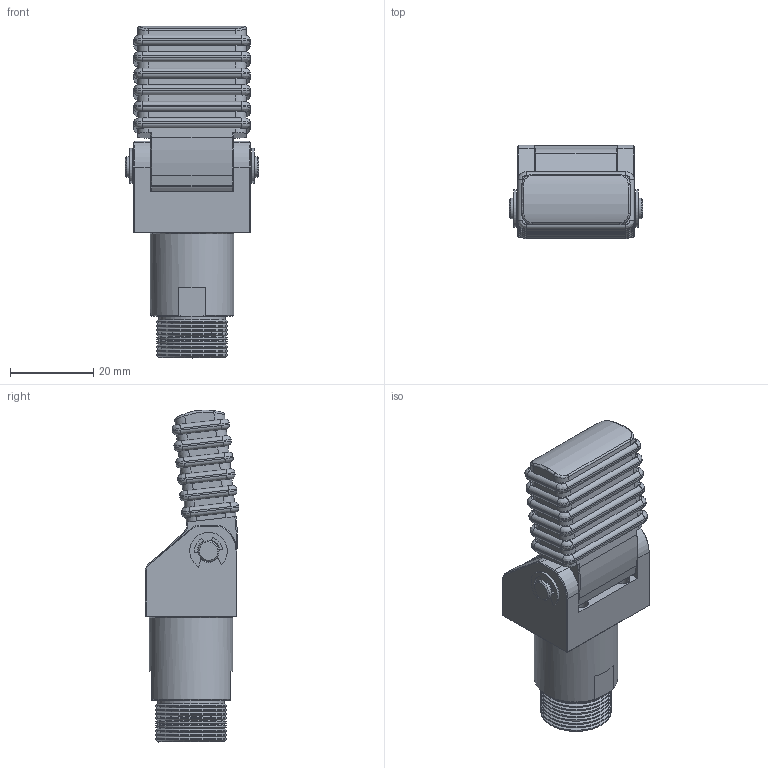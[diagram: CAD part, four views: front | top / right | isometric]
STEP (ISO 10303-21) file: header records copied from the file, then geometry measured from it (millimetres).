
FILE_DESCRIPTION(/* description */ (''),/* implementation_level */ '2;1');
FILE_NAME(/* name */ '8.Y00398-GOF20-20-NBR(1).stp',/* time_stamp */ '2023-03-09T13:20:23+08:00',/* author */ (''),/* organization */ (''),/* preprocessor_version */ 'ST-DEVELOPER v16',/* originating_system */ 'SIEMENS PLM Software NX 10.0',/* authorisation */ '');
FILE_SCHEMA (('AUTOMOTIVE_DESIGN { 1 0 10303 214 3 1 1 1 }'));
Length unit declared in the file: millimetre
Products named in the file (1): _modelEWW
Bounding box: 32 x 22.47 x 79.64 mm (x, y, z)
Volume: 27927.7 mm3; surface area: 13316.9 mm2
Topology: 5 solids, 5 shells, 438 faces, 1091 edges, 671 vertices
Faces by surface type: plane 181, cylinder 156, cone 47, bspline 28, torus 26
Full cylindrical faces by diameter (mm): 1 x1, 3 x1, 3.1 x2, 3.9 x2, 4.2 x1, 5 x6, 15.75 x1, 16 x2, 17 x9, 20 x1
Entity records: 16120 total; most frequent: CARTESIAN_POINT 3016, DIRECTION 2123, ORIENTED_EDGE 2024, EDGE_CURVE 1012, AXIS2_PLACEMENT_3D 810, VERTEX_POINT 647, EDGE_LOOP 509, LINE 503
